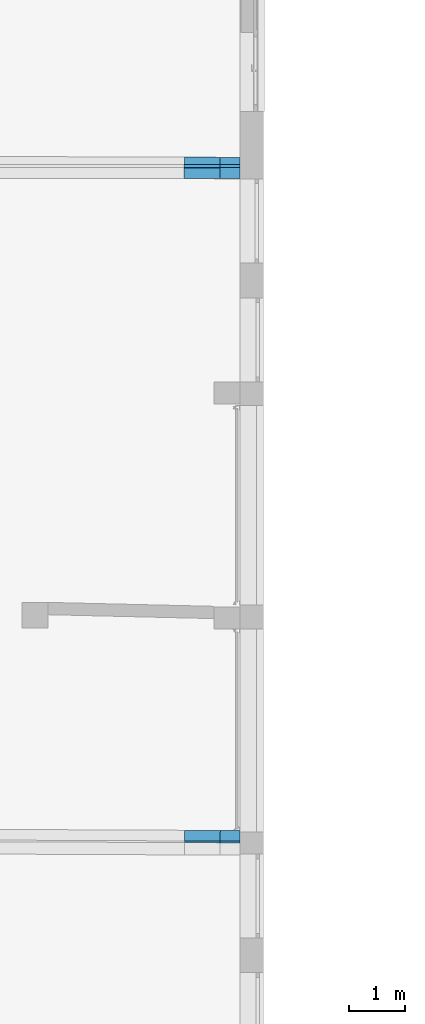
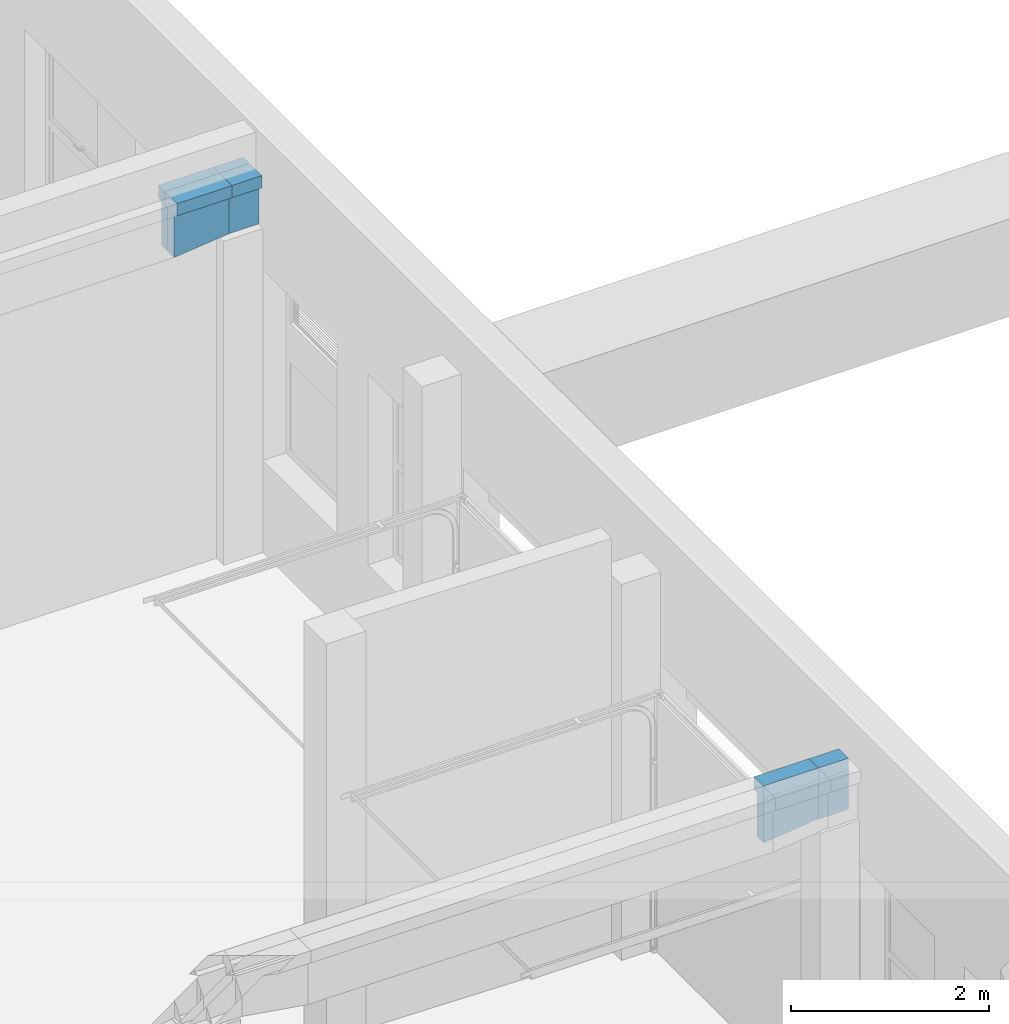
# One storey, part 226 of 301: 6 building element parts, 3 elements without a shape of their own.
"""IFC2X3 building model written with IfcOpenShell, lengths in millimetres."""

from ifc_helpers import new_model, entity, si_unit, converted_unit, derived_unit, money_unit, direction, frame, origin_with_axes, place, context, subcontext, project, spatial, faceted_brep, material, type_object, element, aggregate, save


model = new_model("IFC2X3")

# Units and contexts
model_context = context("Model", 3, precision=0.01, world=origin_with_axes(), true_north=direction((0.0, 1.0)))
body_context = subcontext(model_context, "Body", "Model", "MODEL_VIEW")
ifc_project = project(units=[si_unit("LENGTHUNIT", "METRE", prefix="MILLI"), si_unit("AREAUNIT", "SQUARE_METRE"), si_unit("VOLUMEUNIT", "CUBIC_METRE"), converted_unit("PLANEANGLEUNIT", "DEGREE", entity("IfcPlaneAngleMeasure", 0.0174532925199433), si_unit("PLANEANGLEUNIT", "RADIAN"), dimensions=[0, 0, 0, 0, 0, 0, 0]), money_unit("EUR"), converted_unit("TIMEUNIT", "Year", entity("IfcTimeMeasure", 31557600.0), si_unit("TIMEUNIT", "SECOND"), dimensions=[0, 0, 1, 0, 0, 0, 0]), si_unit("MASSUNIT", "GRAM", prefix="KILO"), si_unit("THERMODYNAMICTEMPERATUREUNIT", "DEGREE_CELSIUS"), si_unit("LUMINOUSINTENSITYUNIT", "LUMEN"), si_unit("ENERGYUNIT", "JOULE", prefix="MEGA"), derived_unit("THERMALCONDUCTANCEUNIT", [(si_unit("POWERUNIT", "WATT"), 1), (si_unit("LENGTHUNIT", "METRE"), -1), (si_unit("THERMODYNAMICTEMPERATUREUNIT", "KELVIN"), -1)]), derived_unit("SPECIFICHEATCAPACITYUNIT", [(si_unit("ENERGYUNIT", "JOULE"), 1), (si_unit("MASSUNIT", "GRAM", prefix="KILO"), -1), (si_unit("THERMODYNAMICTEMPERATUREUNIT", "KELVIN"), -1)]), derived_unit("MASSDENSITYUNIT", [(si_unit("MASSUNIT", "GRAM", prefix="KILO"), 1), (si_unit("VOLUMEUNIT", "CUBIC_METRE"), -1)])], contexts=[model_context])

# Site, building, storey
site_placement = place(None, frame((0.0, 0.0, 8650.0), z_axis=(0.0, 0.0, 1.0), x_axis=(1.0, 0.0, 0.0)))
site = spatial("IfcSite", under=ifc_project, at=site_placement, Name="43301:001:0844", CompositionType="ELEMENT")
building_placement = place(site_placement, origin_with_axes())
building = spatial("IfcBuilding", under=site, at=building_placement, Name="Kuressaare Ametikooli tuulikute mehaanikute õppekorpus", CompositionType="ELEMENT")
storey_placement = place(building_placement, origin_with_axes())
storey = spatial("IfcBuildingStorey", under=building, at=storey_placement, Name="1.korrus", CompositionType="ELEMENT", Elevation=0.0)

# Beam, building element parts
beam_type_1 = type_object("IfcBeamType", Name="Various Structures - 5 Segments - 250 x 700 x 7497 (338+766+5404+640+350)", PredefinedType="NOTDEFINED")
beam_1_placement = place(storey_placement, frame((95731.40168846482, 98524.34147844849, 4300.0), z_axis=(0.0, 0.0, 1.0), x_axis=(-0.004564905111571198, -0.999989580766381, 0.0)))
beam_1 = element("IfcBeam", 1, at=beam_1_placement, inside=storey, type_object=beam_type_1)
ifc_material = material(Name="Raudbetoon")
building_element_part_1_placement = place(beam_1_placement, origin_with_axes())
building_element_part_1 = element("IfcBuildingElementPart", 2, at=building_element_part_1_placement, material=ifc_material, Name="Raudbetoon", context=body_context, shape_type="Brep", body=[
    faceted_brep([(65.00000000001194, 7147.12073012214, -164.4012678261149), (65.00000000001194, 7147.12073012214, -629.999999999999), (-64.99999999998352, 7147.120730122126, -629.999999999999), (-64.99999999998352, 7147.120730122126, -164.4012678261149), (-125.0052826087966, 7147.12073012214, -150.0000000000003), (-125.0054185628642, 7147.12073012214, -75.00000000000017), (-125.0055545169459, 7147.12073012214, 0.0), (65.00617988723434, 7147.12073012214, 0.0), (65.0063155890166, 7147.12073012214, -74.86081713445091), (65.0063161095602, 7147.12073012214, -75.13918286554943), (65.00645181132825, 7147.120730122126, -150.0000000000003), (95.00586721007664, 7147.12073012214, -157.1998596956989), (65.00000000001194, 7036.480552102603, -642.1084583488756), (65.00000000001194, 7036.480552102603, -629.999999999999), (65.00000000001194, 6507.500702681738, -164.4011476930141), (65.00000000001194, 6507.500702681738, -700.0000000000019), (-64.99999999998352, 7035.887108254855, -629.999999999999), (-64.99999999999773, 7035.887108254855, -642.1734048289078), (-64.99999999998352, 6507.500702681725, -700.0000000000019), (-64.99999999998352, 6507.500702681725, -164.4011476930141), (-125.0049071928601, 6667.405709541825, -150.0000000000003), (-125.0051574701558, 6987.215723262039, -150.0000000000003), (-125.0047820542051, 6507.500702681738, -150.0000000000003), (-125.0054379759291, 6987.215723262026, 0.0), (65.00617967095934, 6507.500702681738, 0.0), (65.00664583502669, 6507.797449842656, 0.0), (65.00652929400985, 6667.70245670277, 0.0), (65.00629621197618, 6987.51247042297, 0.0), (-125.0052048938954, 6667.405709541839, 0.0), (-125.0050883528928, 6507.500702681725, 0.0), (65.00655730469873, 6827.60746356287, -75.00000000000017), (65.00657671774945, 6987.51247042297, -150.0000000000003), (65.00645157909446, 6507.500702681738, -150.0000000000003), (95.00561681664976, 6507.500702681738, -157.1997996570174), (65.00682699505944, 6667.70245670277, -150.0000000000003), (65.00695213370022, 6507.79744984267, -150.0000000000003), (-125.0049352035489, 6507.500702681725, -75.00000000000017), (-125.0051768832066, 6827.310716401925, -75.00000000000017), (65.00679898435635, 6507.797449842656, -75.00000000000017)], [[[0, 1, 2, 3, 4, 5, 6, 7, 8, 9, 10, 11]], [[12, 13, 1, 0, 14, 15]], [[13, 16, 2, 1]], [[2, 16, 17, 18, 19, 3]], [[20, 21, 4, 3, 19, 22]], [[4, 21, 5]], [[5, 23, 6]], [[24, 25, 26, 27, 7, 6, 23, 28, 29]], [[7, 27, 8]], [[30, 31, 9, 8, 27]], [[9, 31, 10]], [[32, 33, 11, 10, 31, 34, 35]], [[14, 0, 11, 33]], [[12, 17, 16, 13]], [[15, 14, 33, 32, 24, 29, 36, 22, 19, 18]], [[18, 17, 12, 15]], [[21, 20, 37]], [[20, 22, 36]], [[37, 23, 5, 21]], [[32, 35, 38, 25, 24]], [[25, 38, 26]], [[26, 30, 27]], [[37, 28, 23]], [[36, 29, 28]], [[31, 30, 34]], [[35, 34, 38]], [[36, 28, 37, 20]], [[30, 26, 38, 34]]]),
])
building_element_part_2_placement = place(beam_1_placement, origin_with_axes())
building_element_part_2 = element("IfcBuildingElementPart", 3, at=building_element_part_2_placement, material=ifc_material, Name="Raudbetoon", context=body_context, shape_type="Brep", body=[
    faceted_brep([(65.00617967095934, 7147.417477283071, 0.0), (65.00617967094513, 7496.485373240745, 0.0), (-125.0055545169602, 7495.617978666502, 0.0), (-125.0055545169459, 7147.12073012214, 0.0), (65.00617988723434, 7147.12073012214, 0.0), (65.00645157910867, 7147.417477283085, -150.0000000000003), (65.00645157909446, 7496.485374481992, -150.0000000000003), (65.00631562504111, 7147.417477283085, -75.00000000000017), (-65.00000000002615, 7495.8919011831, -164.4012678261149), (-125.005282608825, 7495.617979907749, -150.0000000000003), (95.00586709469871, 7496.622320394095, -157.1998597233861), (64.99999999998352, 7496.485345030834, -164.4012678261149), (64.99999999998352, 7496.485345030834, -629.999999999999), (-65.00000000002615, 7495.8919011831, -629.999999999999), (-125.0052826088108, 7147.12073012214, -150.0000000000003), (65.00645181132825, 7147.120730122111, -150.0000000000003), (65.0063161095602, 7147.120730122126, -75.13918286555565), (65.0063155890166, 7147.12073012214, -74.8608171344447), (-64.99999999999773, 7147.120730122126, -164.4012678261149), (-64.99999999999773, 7147.120730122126, -629.999999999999), (64.99999999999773, 7147.12073012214, -629.999999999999), (64.99999999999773, 7147.12073012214, -164.4012678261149), (95.00586721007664, 7147.12073012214, -157.1998596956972)], [[[0, 1, 2, 3, 4]], [[5, 6, 1, 0, 7]], [[8, 9, 2, 1, 6, 10, 11, 12, 13]], [[3, 2, 9, 14]], [[15, 16, 17, 4, 3, 14, 18, 19, 20, 21, 22]], [[4, 17, 7, 0]], [[22, 10, 6, 5, 15]], [[16, 15, 5, 7]], [[14, 9, 8, 18]], [[21, 11, 10, 22]], [[20, 12, 11, 21]], [[19, 13, 12, 20]], [[18, 8, 13, 19]], [[16, 7, 17]]]),
])
aggregate(beam_1, [building_element_part_1, building_element_part_2])

beam_type_2 = type_object("IfcBeamType", Name="Various Structures - 5 Segments - 250 x 700 x 7459 (337+766+5365+640+352)", PredefinedType="NOTDEFINED")
beam_2_placement = place(storey_placement, frame((95767.67580270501, 110534.9704800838, 4300.0), z_axis=(0.0, 0.0, 1.0), x_axis=(-0.003367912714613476, -0.9999943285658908, 0.0)))
beam_2 = element("IfcBeam", 4, at=beam_2_placement, inside=storey, type_object=beam_type_2)
building_element_part_3_placement = place(beam_2_placement, origin_with_axes())
building_element_part_3 = element("IfcBuildingElementPart", 5, at=building_element_part_3_placement, material=ifc_material, Name="Raudbetoon", context=body_context, shape_type="Brep", body=[
    faceted_brep([(-125.0054379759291, 6948.207446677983, 0.0), (-125.0052048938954, 6628.397432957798, 0.0), (-125.0050883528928, 6468.492426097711, 0.0), (3.027838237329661, 6468.492426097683, 0.0), (2.540484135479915, 6628.019514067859, 0.0), (1.56347141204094, 6947.828035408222, 0.0), (1.074965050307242, 7107.732296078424, 0.0), (1.073803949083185, 7108.112453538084, 0.0), (-125.0055545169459, 7108.112453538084, 0.0), (-125.0051768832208, 6788.302439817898, -75.00000000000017), (-125.0049352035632, 6468.492426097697, -75.00000000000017), (63.03320674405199, 6468.492426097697, -699.9787792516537), (63.03320674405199, 6468.492426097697, -164.4011477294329), (3.028144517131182, 6468.492426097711, -150.0000000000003), (3.027991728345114, 6468.492426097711, -75.17690533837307), (3.02799102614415, 6468.492426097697, -74.82309466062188), (-125.0047820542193, 6468.492426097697, -150.0000000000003), (-64.99999999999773, 6468.492426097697, -164.4011476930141), (-64.99999999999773, 6468.492426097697, -700.0000000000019), (64.99999999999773, 6468.492426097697, -700.0000000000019), (64.99999999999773, 6468.492426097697, -699.9794366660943), (2.052122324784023, 6787.92377517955, -75.00000000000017), (1.075101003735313, 7107.732296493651, -75.00000000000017), (1.075236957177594, 7107.732296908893, -150.0000000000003), (1.07407585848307, 7108.112453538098, -150.0000000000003), (-125.0052826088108, 7108.112453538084, -150.0000000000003), (-125.0054185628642, 7108.11245353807, -75.00000000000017), (61.07963834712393, 7108.112453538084, -164.4012678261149), (61.07963834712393, 7108.112453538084, -629.999999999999), (-64.99999999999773, 7108.112453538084, -630.0000000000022), (-64.99999999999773, 7108.112453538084, -164.4012678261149), (-125.0051574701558, 6948.207446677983, -150.0000000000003), (-125.0049071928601, 6628.397432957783, -150.0000000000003), (61.08023968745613, 7107.915568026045, -629.999999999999), (61.08023968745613, 7107.915568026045, -164.4012678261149), (1.563751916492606, 6947.828036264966, -150.0000000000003), (2.54078183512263, 6628.019514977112, -150.0000000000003), (64.99999999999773, 7108.112453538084, -629.999999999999), (65.00000000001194, 7107.927540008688, -629.999999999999)], [[[0, 1, 2, 3, 4, 5, 6, 7, 8]], [[1, 0, 9]], [[2, 1, 10]], [[11, 12, 13, 14, 15, 3, 2, 10, 16, 17, 18, 19, 20]], [[15, 4, 3]], [[21, 5, 4]], [[5, 22, 6]], [[23, 24, 7, 6, 22]], [[25, 26, 8, 7, 24, 27, 28, 29, 30]], [[0, 8, 26]], [[26, 31, 9, 0]], [[9, 32, 10, 1]], [[11, 33, 28, 27, 34, 12]], [[12, 34, 27, 24, 23, 35, 36, 13]], [[36, 14, 13]], [[14, 36, 21, 4, 15]], [[16, 10, 32]], [[17, 16, 32, 31, 25, 30]], [[30, 29, 18, 17]], [[28, 37, 19, 18, 29]], [[38, 20, 19, 37]], [[38, 33, 11, 20]], [[21, 35, 22, 5]], [[35, 23, 22]], [[31, 26, 25]], [[32, 9, 31]], [[33, 38, 37, 28]], [[21, 36, 35]]]),
])
building_element_part_4_placement = place(beam_2_placement, origin_with_axes())
building_element_part_4 = element("IfcBuildingElementPart", 6, at=building_element_part_4_placement, material=ifc_material, Name="Raudbetoon", context=body_context, shape_type="Brep", body=[
    faceted_brep([(125.0055545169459, 7459.878712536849, 0.0), (3.495870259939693e-09, 7459.878712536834, 0.0), (-125.0055545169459, 7459.457702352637, 0.0), (-125.0055545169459, 7108.112453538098, 0.0), (1.073803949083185, 7108.112453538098, 0.0), (0.0005830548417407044, 7459.496914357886, 0.0), (64.99999999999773, 7459.878712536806, -629.999999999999), (-2.899014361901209e-09, 7459.878712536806, -629.999999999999), (125.0052826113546, 7459.878711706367, -150.0000000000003), (64.99999999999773, 7459.878712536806, -164.4012678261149), (-64.99999999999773, 7459.659796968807, -164.4012678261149), (-125.005282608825, 7459.457703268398, -150.0000000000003), (-64.99999999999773, 7459.659796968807, -629.999999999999), (-125.0052826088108, 7108.112453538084, -150.0000000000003), (61.07963834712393, 7108.112453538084, -629.999999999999), (61.07963834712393, 7108.112453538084, -164.4012678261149), (1.07407585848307, 7108.112453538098, -150.0000000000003), (-64.99999999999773, 7108.112453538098, -164.4012678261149), (-64.99999999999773, 7108.112453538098, -629.999999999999), (0.0008549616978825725, 7459.496915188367, -150.0000000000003), (65.00000000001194, 7459.695439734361, -164.4012678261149), (60.00585769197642, 7459.680186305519, -164.4012678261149), (60.00585769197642, 7459.680186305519, -629.999999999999), (65.00000000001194, 7459.695439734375, -629.999999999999)], [[[0, 1, 2, 3, 4, 5]], [[6, 7, 1, 0, 8, 9]], [[10, 11, 2, 1, 7, 12]], [[3, 2, 11, 13]], [[14, 15, 16, 4, 3, 13, 17, 18]], [[16, 19, 5, 4]], [[20, 8, 0, 5, 19, 21, 22, 23]], [[18, 12, 7, 6, 23, 22, 14]], [[20, 9, 8]], [[6, 9, 20, 23]], [[13, 11, 10, 17]], [[17, 10, 12, 18]], [[21, 15, 14, 22]], [[21, 19, 16, 15]]]),
])
aggregate(beam_2, [building_element_part_3, building_element_part_4])

beam_type_3 = type_object("IfcBeamType", Name="Various Structures - 5 Segments - 250 x 700 x 7489 (338+766+5394+640+352)", PredefinedType="NOTDEFINED")
beam_3_placement = place(storey_placement, frame((95737.96269673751, 110387.1904888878, 4300.0), z_axis=(0.0, 0.0, 1.0), x_axis=(-0.0003136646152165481, -0.9999999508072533, 0.0)))
beam_3 = element("IfcBeam", 7, at=beam_3_placement, inside=storey, type_object=beam_type_3)
building_element_part_5_placement = place(beam_3_placement, origin_with_axes())
building_element_part_5 = element("IfcBuildingElementPart", 8, at=building_element_part_5_placement, material=ifc_material, Name="Raudbetoon", context=body_context, shape_type="Brep", body=[
    faceted_brep([(64.99999999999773, 6497.742584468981, -700.0000000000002), (65.00000000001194, 7137.362611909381, -629.999999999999), (65.00000000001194, 7137.362611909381, -164.4012678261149), (64.99999999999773, 6497.742584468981, -164.4011476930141), (-64.99999999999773, 6497.742584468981, -700.0000000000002), (-64.99999999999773, 7137.362611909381, -629.999999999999), (125.0054185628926, 7137.362611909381, -75.00000000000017), (125.0052826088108, 7137.362611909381, -150.0000000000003), (-64.99999999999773, 7137.362611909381, -164.4012678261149), (-125.0052826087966, 7137.362611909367, -150.0000000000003), (-125.0054185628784, 7137.362611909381, -75.00000000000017), (-125.0055545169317, 7137.362611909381, 0.0), (125.0055545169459, 7137.362611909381, 0.0), (125.00515747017, 6977.457605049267, -150.0000000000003), (125.0049071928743, 6657.647591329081, -150.0000000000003), (125.0047820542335, 6497.742584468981, -150.0000000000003), (-125.0047820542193, 6497.742584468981, -150.0000000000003), (-64.99999999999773, 6497.742584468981, -164.4011476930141), (125.0049352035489, 6497.742584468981, -75.00000000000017), (125.0050883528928, 6497.742584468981, 0.0), (-125.0050883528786, 6497.742584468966, 0.0), (-125.0049352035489, 6497.742584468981, -75.00000000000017), (-125.00515747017, 6977.457605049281, -150.0000000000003), (-125.0049071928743, 6657.647591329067, -150.0000000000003), (-125.0054379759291, 6977.457605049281, 0.0), (125.0054379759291, 6977.457605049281, 0.0), (-125.0052048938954, 6657.647591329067, 0.0), (125.0052048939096, 6657.647591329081, 0.0), (125.0051768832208, 6817.552598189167, -75.00000000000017), (-125.0051768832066, 6817.552598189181, -75.00000000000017)], [[[0, 1, 2, 3]], [[0, 4, 5, 1]], [[6, 7, 2, 1, 5, 8, 9, 10, 11, 12]], [[3, 2, 7, 13, 14, 15]], [[16, 17, 4, 0, 3, 15, 18, 19, 20, 21]], [[17, 8, 5, 4]], [[13, 7, 6]], [[22, 9, 8, 17, 16, 23]], [[22, 10, 9]], [[24, 11, 10]], [[25, 12, 11, 24, 26, 20, 19, 27]], [[25, 6, 12]], [[14, 13, 28]], [[15, 14, 18]], [[19, 18, 27]], [[20, 26, 21]], [[16, 21, 23]], [[13, 6, 25, 28]], [[23, 29, 22]], [[24, 10, 22, 29]], [[26, 24, 29]], [[27, 28, 25]], [[14, 28, 27, 18]], [[26, 29, 23, 21]]]),
])
building_element_part_6_placement = place(beam_3_placement, origin_with_axes())
building_element_part_6 = element("IfcBuildingElementPart", 9, at=building_element_part_6_placement, material=ifc_material, Name="Raudbetoon", context=body_context, shape_type="Brep", body=[
    faceted_brep([(64.99999999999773, 7137.362611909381, -164.4012678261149), (64.99999999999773, 7137.362611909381, -629.999999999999), (65.00000000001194, 7489.128870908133, -629.999999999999), (65.00000000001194, 7489.128870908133, -164.4012678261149), (-64.99999999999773, 7137.362611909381, -164.4012678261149), (-64.99999999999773, 7137.362611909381, -629.999999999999), (125.0052826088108, 7137.362611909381, -150.0000000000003), (125.0055545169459, 7137.362611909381, 0.0), (-125.0055545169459, 7137.362611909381, 0.0), (-125.0052826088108, 7137.362611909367, -150.0000000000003), (-65.00000000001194, 7489.128870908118, -629.999999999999), (125.0052826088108, 7489.128870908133, -150.0000000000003), (-65.00000000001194, 7489.128870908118, -164.4012678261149), (-125.0052826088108, 7489.128870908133, -150.0000000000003), (-125.0055545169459, 7489.128870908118, 0.0), (125.0055545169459, 7489.128870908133, 0.0)], [[[0, 1, 2, 3]], [[4, 5, 1, 0, 6, 7, 8, 9]], [[1, 5, 10, 2]], [[11, 3, 2, 10, 12, 13, 14, 15]], [[6, 0, 3, 11]], [[5, 4, 12, 10]], [[7, 6, 11, 15]], [[8, 7, 15, 14]], [[9, 8, 14, 13]], [[4, 9, 13, 12]]]),
])
aggregate(beam_3, [building_element_part_5, building_element_part_6])

save(model, "model.ifc")
